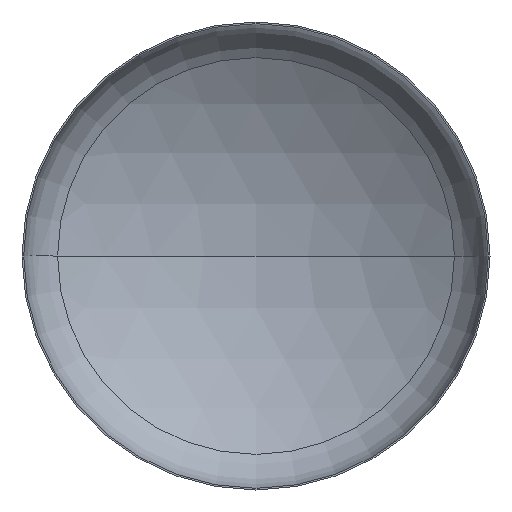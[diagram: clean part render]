
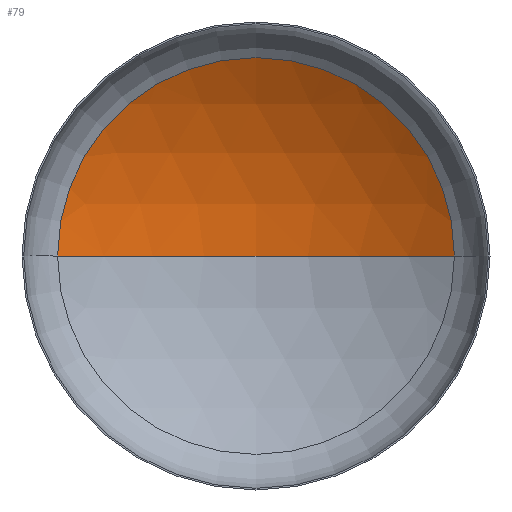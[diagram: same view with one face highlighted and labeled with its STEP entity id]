
A CAD part, front view. The second image highlights one B-rep face of the part: STEP entity #79.
In plain terms, the highlighted spherical face has radius 2720 mm.
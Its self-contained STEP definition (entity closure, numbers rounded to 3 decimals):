
#2 = CARTESIAN_POINT ( 'NONE',  ( 0., 485.251, 0. ) ) ;
#9 = DIRECTION ( 'NONE',  ( 1., 0., 0. ) ) ;
#17 = AXIS2_PLACEMENT_3D ( 'NONE', #102, #160, #162 ) ;
#20 = CARTESIAN_POINT ( 'NONE',  ( 0., -1821.574, 0. ) ) ;
#21 = EDGE_LOOP ( 'NONE', ( #39, #143, #98 ) ) ;
#25 = VERTEX_POINT ( 'NONE', #287 ) ;
#28 = VERTEX_POINT ( 'NONE', #354 ) ;
#36 = SPHERICAL_SURFACE ( 'NONE', #116, 2720. ) ;
#39 = ORIENTED_EDGE ( 'NONE', *, *, #366, .F. ) ;
#59 = VERTEX_POINT ( 'NONE', #251 ) ;
#79 = ADVANCED_FACE ( 'NONE', ( #307 ), #36, .F. ) ;
#80 = AXIS2_PLACEMENT_3D ( 'NONE', #20, #111, #312 ) ;
#82 = AXIS2_PLACEMENT_3D ( 'NONE', #2, #101, #9 ) ;
#98 = ORIENTED_EDGE ( 'NONE', *, *, #156, .T. ) ;
#101 = DIRECTION ( 'NONE',  ( 0., -1., 0. ) ) ;
#102 = CARTESIAN_POINT ( 'NONE',  ( 0., -1821.574, 0. ) ) ;
#111 = DIRECTION ( 'NONE',  ( 0., 0., -1. ) ) ;
#116 = AXIS2_PLACEMENT_3D ( 'NONE', #240, #250, #238 ) ;
#143 = ORIENTED_EDGE ( 'NONE', *, *, #158, .T. ) ;
#156 = EDGE_CURVE ( 'NONE', #28, #25, #230, .T. ) ;
#158 = EDGE_CURVE ( 'NONE', #59, #28, #222, .T. ) ;
#160 = DIRECTION ( 'NONE',  ( 0., 0., 1. ) ) ;
#162 = DIRECTION ( 'NONE',  ( 1., 0., 0. ) ) ;
#222 = CIRCLE ( 'NONE', #80, 2720. ) ;
#230 = CIRCLE ( 'NONE', #82, 1441.166 ) ;
#238 = DIRECTION ( 'NONE',  ( -1., 0., 0. ) ) ;
#240 = CARTESIAN_POINT ( 'NONE',  ( 0., -1821.574, 0. ) ) ;
#250 = DIRECTION ( 'NONE',  ( 0., 0., -1. ) ) ;
#251 = CARTESIAN_POINT ( 'NONE',  ( 0., 898.426, 0. ) ) ;
#287 = CARTESIAN_POINT ( 'NONE',  ( -1441.166, 485.251, 0. ) ) ;
#307 = FACE_OUTER_BOUND ( 'NONE', #21, .T. ) ;
#312 = DIRECTION ( 'NONE',  ( -1., 0., 0. ) ) ;
#354 = CARTESIAN_POINT ( 'NONE',  ( 1441.166, 485.251, 0. ) ) ;
#366 = EDGE_CURVE ( 'NONE', #59, #25, #379, .T. ) ;
#379 = CIRCLE ( 'NONE', #17, 2720. ) ;
